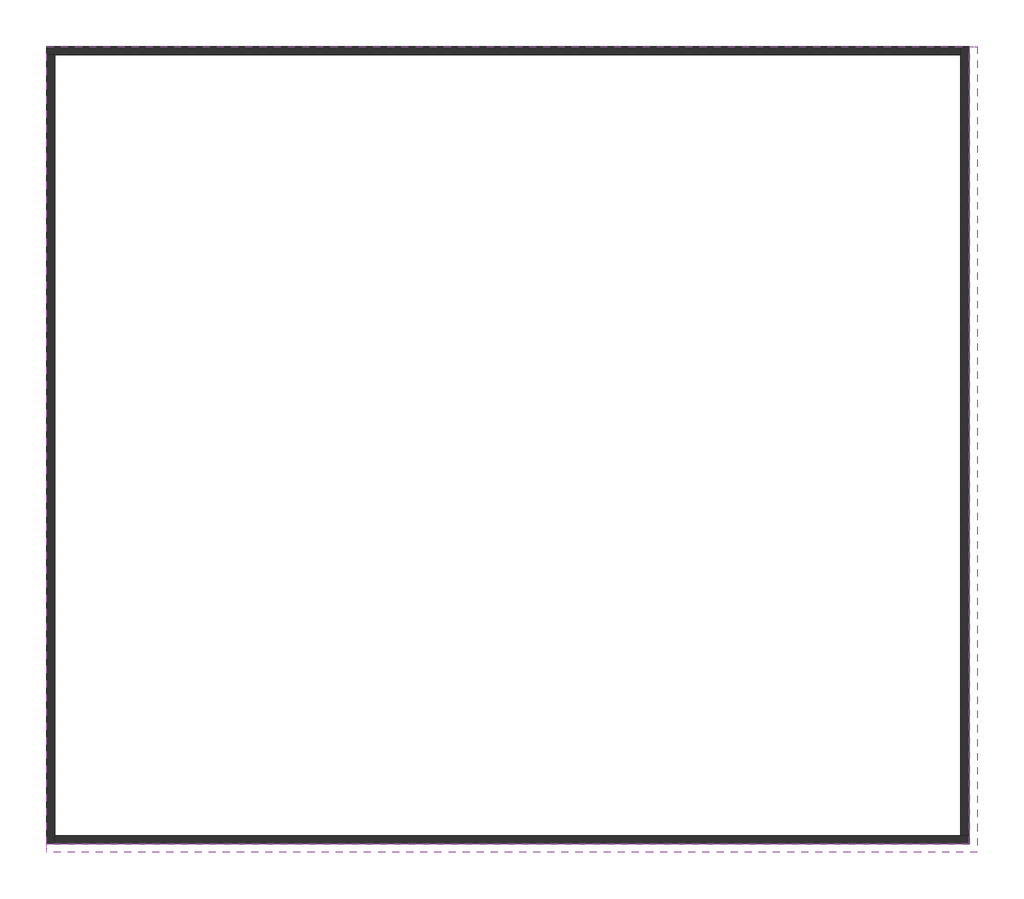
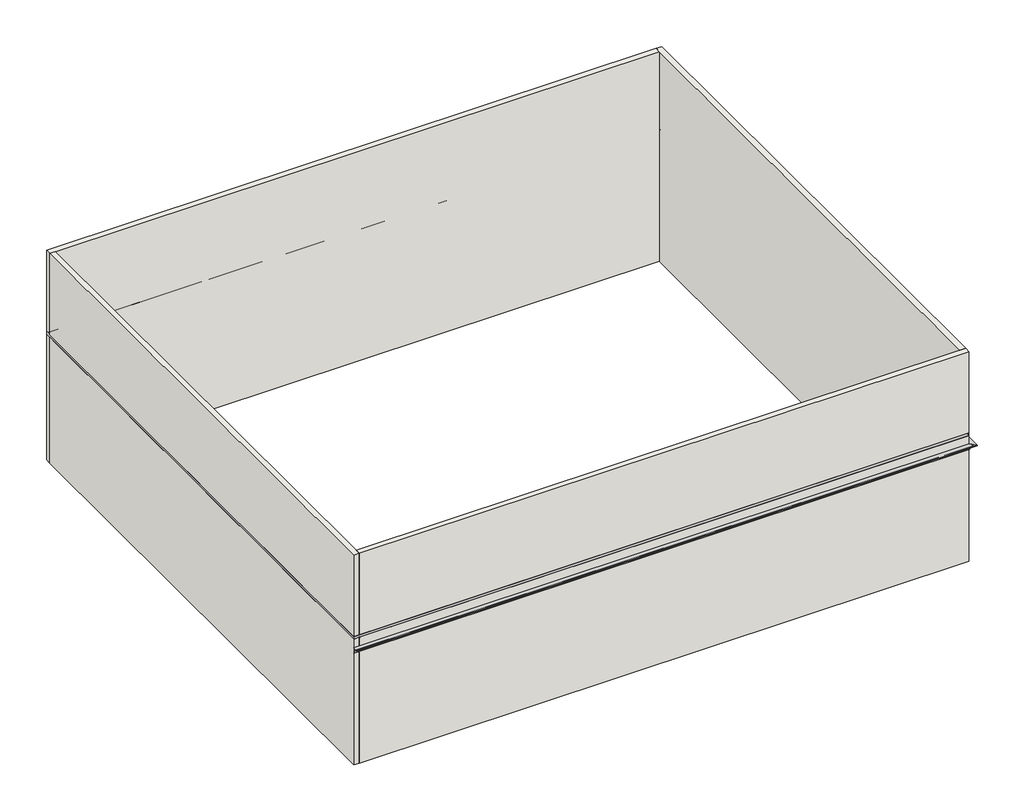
# One storey: 4 walls, 2 proxies.
"""IFC4 building model written with IfcOpenShell, lengths in millimetres."""

from ifc_helpers import new_model, si_unit, frame, origin, place, context, project, spatial, polyline, circle_curve, ellipse_curve, element, save
from ifc_brep_helpers import plane_surface, cylinder_surface, revolved_surface, advanced_brep

model = new_model("IFC4")

# Units and contexts
model_context = context("Model", 3, world=origin())
ifc_project = project(units=[si_unit("LENGTHUNIT", "METRE", prefix="MILLI")], contexts=[model_context])

# Site, building, storey
site = spatial("IfcSite", under=ifc_project)
building = spatial("IfcBuilding", under=site)
storey = spatial("IfcBuildingStorey", under=building, Name="Nível 1", Elevation=0.0)

# Proxies
placement = place(None, origin())
element("IfcBuildingElementProxy", 1, Name="Cornija", ObjectType="Cornija", at=placement, inside=storey, context=model_context, shape_type="AdvancedBrep", body=[
    advanced_brep(
    [(9081.3042825, -9893.1907529, 4480.0), (9081.3042825, -9893.1907529, 4460.0), (8901.3042825, -9713.1907529, 4280.0), (8881.3042825, -9693.1907529, 4280.0), (8881.3042825, -9693.1907529, 4480.0), (-13318.6957175, -9893.1907529, 4480.0), (-13318.6957175, -9693.1907529, 4480.0), (-13318.6957175, -9693.1907529, 4280.0), (-13318.6957175, -9713.1907529, 4280.0), (-13318.6957175, -9893.1907529, 4460.0)],
    [
        (0, 1),
        (1, 2, ellipse_curve(frame((9081.3042825, -9893.1907529, 4280.0), z_axis=(-0.7071067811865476, -0.7071067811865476, 0.0), x_axis=(-0.7071067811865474, 0.7071067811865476, 0.0)), 254.5584412, 180.0)),
        (2, 3),
        (3, 4),
        (4, 0),
        (5, 6),
        (6, 7),
        (7, 8),
        (8, 9, circle_curve(frame((-13318.6957175, -9893.1907529, 4280.0), z_axis=(1.0, 0.0, 0.0), x_axis=(0.0, -1.0, 0.0)), 180.0)),
        (9, 5),
        (0, 5),
        (9, 1),
        (8, 2),
        (7, 3),
        (6, 4),
    ],
    [
        plane_surface(frame((8881.3042825, -9693.1907529, 4784.8), z_axis=(0.7071067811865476, 0.7071067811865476, 0.0), x_axis=(-0.7071067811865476, 0.7071067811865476, 0.0))),
        plane_surface(frame((-13318.6957175, -9693.1907529, 4279.0024876), z_axis=(-1.0, 0.0, 0.0), x_axis=(0.0, -1.0, 0.0))),
        plane_surface(frame((9081.3042825, -9893.1907529, 4480.0), z_axis=(0.0, -1.0, 0.0), x_axis=(-1.0, 0.0, 0.0))),
        revolved_surface(polyline([(-13318.6957175, -10073.1907529, 4280.0), (9261.304282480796, -10073.1907529, 4280.0)]), (8881.3042825, -9893.1907529, 4280.0), (-1.0, 0.0, 0.0)),
        plane_surface(frame((8901.3042825, -9713.1907529, 4280.0), z_axis=(0.0, 0.0, -1.0), x_axis=(-1.0, 0.0, 0.0))),
        plane_surface(frame((8881.3042825, -9693.1907529, 4280.0), z_axis=(0.0, 1.0, 0.0), x_axis=(-1.0, 0.0, 0.0))),
        plane_surface(frame((8881.3042825, -9693.1907529, 4480.0), z_axis=(0.0, 0.0, 1.0), x_axis=(-1.0, 0.0, 0.0))),
    ],
    [
        (0, [[1, 2, 3, 4, 5]]),
        (1, [[6, 7, 8, 9, 10]]),
        (2, [[-1, 11, -10, 12]]),
        (3, [[-2, -12, -9, 13]]),
        (4, [[-3, -13, -8, 14]]),
        (5, [[-4, -14, -7, 15]]),
        (6, [[-5, -15, -6, -11]]),
    ],
),
    advanced_brep(
    [(9081.3042825, 9506.8092471, 4480.0), (9081.3042825, 9506.8092471, 4460.0), (8901.3042825, 9506.8092471, 4280.0), (8881.3042825, 9506.8092471, 4280.0), (8881.3042825, 9506.8092471, 4480.0), (9081.3042825, -9893.1907529, 4480.0), (8881.3042825, -9693.1907529, 4480.0), (8881.3042825, -9693.1907529, 4280.0), (8901.3042825, -9713.1907529, 4280.0), (9081.3042825, -9893.1907529, 4460.0)],
    [
        (0, 1),
        (1, 2, circle_curve(frame((9081.3042825, 9506.8092471, 4280.0), z_axis=(0.0, -1.0, 0.0), x_axis=(1.0, 0.0, 0.0)), 180.0)),
        (2, 3),
        (3, 4),
        (4, 0),
        (5, 6),
        (6, 7),
        (7, 8),
        (8, 9, ellipse_curve(frame((9081.3042825, -9893.1907529, 4280.0), z_axis=(0.7071067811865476, 0.7071067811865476, 0.0), x_axis=(0.7071067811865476, -0.7071067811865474, 0.0)), 254.5584412, 180.0)),
        (9, 5),
        (0, 5),
        (9, 1),
        (8, 2),
        (7, 3),
        (6, 4),
    ],
    [
        plane_surface(frame((8680.3067701, 9506.8092471, 4480.0), z_axis=(0.0, 1.0, 0.0), x_axis=(0.0, 0.0, -1.0))),
        plane_surface(frame((8881.3042825, -9693.1907529, 4784.8), z_axis=(-0.7071067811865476, -0.7071067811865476, 0.0), x_axis=(-0.7071067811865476, 0.7071067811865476, 0.0))),
        plane_surface(frame((9081.3042825, 9506.8092471, 4480.0), z_axis=(1.0, 0.0, 0.0), x_axis=(0.0, -1.0, 0.0))),
        revolved_surface(polyline([(9261.3042825, -10073.190752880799, 4280.0), (9261.3042825, 9506.8092471, 4280.0)]), (9081.3042825, 9506.8092471, 4280.0), (0.0, -1.0, 0.0)),
        plane_surface(frame((8901.3042825, 9506.8092471, 4280.0), z_axis=(0.0, 0.0, -1.0), x_axis=(0.0, -1.0, 0.0))),
        plane_surface(frame((8881.3042825, 9506.8092471, 4280.0), z_axis=(-1.0, 0.0, 0.0), x_axis=(0.0, -1.0, 0.0))),
        plane_surface(frame((8881.3042825, 9506.8092471, 4480.0), z_axis=(0.0, 0.0, 1.0), x_axis=(0.0, -1.0, 0.0))),
    ],
    [
        (0, [[1, 2, 3, 4, 5]]),
        (1, [[6, 7, 8, 9, 10]]),
        (2, [[-1, 11, -10, 12]]),
        (3, [[-2, -12, -9, 13]]),
        (4, [[-3, -13, -8, 14]]),
        (5, [[-4, -14, -7, 15]]),
        (6, [[-5, -15, -6, -11]]),
    ],
),
])
element("IfcBuildingElementProxy", 2, Name="Friso", ObjectType="Friso", at=placement, inside=storey, context=model_context, shape_type="AdvancedBrep", body=[
    advanced_brep(
    [(8781.3042825, -9593.1907529, 4900.0), (8881.3042825, -9693.1907529, 4900.0), (8881.3042825, -9693.1907529, 4800.0), (8871.3042825, -9683.1907529, 4800.0), (8781.3042825, -9593.1907529, 4890.0), (-13218.6957175, -9593.1907529, 4900.0), (-13218.6957175, -9593.1907529, 4890.0), (-13308.6957175, -9683.1907529, 4800.0), (-13318.6957175, -9693.1907529, 4800.0), (-13318.6957175, -9693.1907529, 4900.0)],
    [
        (0, 1),
        (1, 2),
        (2, 3),
        (3, 4, ellipse_curve(frame((8781.3042825, -9593.1907529, 4800.0), z_axis=(-0.7071067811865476, -0.7071067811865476, 0.0), x_axis=(-0.7071067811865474, 0.7071067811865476, 0.0)), 127.2792206, 90.0)),
        (4, 0),
        (5, 6),
        (6, 7, ellipse_curve(frame((-13218.6957175, -9593.1907529, 4800.0), z_axis=(0.7071067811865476, -0.7071067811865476, 0.0), x_axis=(-0.7071067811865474, -0.7071067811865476, 0.0)), 127.2792206, 90.0)),
        (7, 8),
        (8, 9),
        (9, 5),
        (0, 5),
        (9, 1),
        (8, 2),
        (7, 3),
        (6, 4),
    ],
    [
        plane_surface(frame((8881.3042825, -9693.1907529, 5204.8), z_axis=(0.7071067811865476, 0.7071067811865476, 0.0), x_axis=(-0.7071067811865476, 0.7071067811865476, 0.0))),
        plane_surface(frame((-13318.6957175, -9693.1907529, 5204.8), z_axis=(-0.7071067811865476, 0.7071067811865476, 0.0), x_axis=(0.7071067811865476, 0.7071067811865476, 0.0))),
        plane_surface(frame((8781.3042825, -9593.1907529, 4900.0), z_axis=(0.0, 0.0, 1.0), x_axis=(-1.0, 0.0, 0.0))),
        plane_surface(frame((8881.3042825, -9693.1907529, 4900.0), z_axis=(0.0, -1.0, 0.0), x_axis=(-1.0, 0.0, 0.0))),
        plane_surface(frame((8881.3042825, -9693.1907529, 4800.0), z_axis=(0.0, 0.0, -1.0), x_axis=(-1.0, 0.0, 0.0))),
        revolved_surface(polyline([(-13308.6957175, -9503.1907529, 4800.0), (8871.3042825, -9503.1907529, 4800.0)]), (8881.3042825, -9593.1907529, 4800.0), (-1.0, 0.0, 0.0)),
        plane_surface(frame((8781.3042825, -9593.1907529, 4890.0), z_axis=(0.0, 1.0, 0.0), x_axis=(-1.0, 0.0, 0.0))),
    ],
    [
        (0, [[1, 2, 3, 4, 5]]),
        (1, [[6, 7, 8, 9, 10]]),
        (2, [[-1, 11, -10, 12]]),
        (3, [[-2, -12, -9, 13]]),
        (4, [[-3, -13, -8, 14]]),
        (5, [[-4, -14, -7, 15]]),
        (6, [[-5, -15, -6, -11]]),
    ],
),
    advanced_brep(
    [(8781.3042825, 9406.8092471, 4900.0), (8881.3042825, 9506.8092471, 4900.0), (8881.3042825, 9506.8092471, 4800.0), (8871.3042825, 9496.8092471, 4800.0), (8781.3042825, 9406.8092471, 4890.0), (8781.3042825, -9593.1907529, 4900.0), (8781.3042825, -9593.1907529, 4890.0), (8871.3042825, -9683.1907529, 4800.0), (8881.3042825, -9693.1907529, 4800.0), (8881.3042825, -9693.1907529, 4900.0)],
    [
        (0, 1),
        (1, 2),
        (2, 3),
        (3, 4, ellipse_curve(frame((8781.3042825, 9406.8092471, 4800.0), z_axis=(0.7071067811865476, -0.7071067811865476, 0.0), x_axis=(-0.7071067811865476, -0.7071067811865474, 0.0)), 127.2792206, 90.0)),
        (4, 0),
        (5, 6),
        (6, 7, ellipse_curve(frame((8781.3042825, -9593.1907529, 4800.0), z_axis=(0.7071067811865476, 0.7071067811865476, 0.0), x_axis=(0.7071067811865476, -0.7071067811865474, 0.0)), 127.2792206, 90.0)),
        (7, 8),
        (8, 9),
        (9, 5),
        (0, 5),
        (9, 1),
        (8, 2),
        (7, 3),
        (6, 4),
    ],
    [
        plane_surface(frame((8881.3042825, 9506.8092471, 5204.8), z_axis=(-0.7071067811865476, 0.7071067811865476, 0.0), x_axis=(-0.7071067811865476, -0.7071067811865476, 0.0))),
        plane_surface(frame((8881.3042825, -9693.1907529, 5204.8), z_axis=(-0.7071067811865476, -0.7071067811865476, 0.0), x_axis=(-0.7071067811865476, 0.7071067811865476, 0.0))),
        plane_surface(frame((8781.3042825, 9406.8092471, 4900.0), z_axis=(0.0, 0.0, 1.0), x_axis=(0.0, -1.0, 0.0))),
        plane_surface(frame((8881.3042825, 9506.8092471, 4900.0), z_axis=(1.0, 0.0, 0.0), x_axis=(0.0, -1.0, 0.0))),
        plane_surface(frame((8881.3042825, 9506.8092471, 4800.0), z_axis=(0.0, 0.0, -1.0), x_axis=(0.0, -1.0, 0.0))),
        revolved_surface(polyline([(8691.3042825, -9683.1907529, 4800.0), (8691.3042825, 9496.8092471, 4800.0)]), (8781.3042825, 9506.8092471, 4800.0), (0.0, -1.0, 0.0)),
        plane_surface(frame((8781.3042825, 9406.8092471, 4890.0), z_axis=(-1.0, 0.0, 0.0), x_axis=(0.0, -1.0, 0.0))),
    ],
    [
        (0, [[1, 2, 3, 4, 5]]),
        (1, [[6, 7, 8, 9, 10]]),
        (2, [[-1, 11, -10, 12]]),
        (3, [[-2, -12, -9, 13]]),
        (4, [[-3, -13, -8, 14]]),
        (5, [[-4, -14, -7, 15]]),
        (6, [[-5, -15, -6, -11]]),
    ],
),
    advanced_brep(
    [(-13218.6957175, 9406.8092471, 4900.0), (-13318.6957175, 9506.8092471, 4900.0), (-13318.6957175, 9506.8092471, 4800.0), (-13308.6957175, 9496.8092471, 4800.0), (-13218.6957175, 9406.8092471, 4890.0), (8781.3042825, 9406.8092471, 4900.0), (8781.3042825, 9406.8092471, 4890.0), (8871.3042825, 9496.8092471, 4800.0), (8881.3042825, 9506.8092471, 4800.0), (8881.3042825, 9506.8092471, 4900.0)],
    [
        (0, 1),
        (1, 2),
        (2, 3),
        (3, 4, ellipse_curve(frame((-13218.6957175, 9406.8092471, 4800.0), z_axis=(0.7071067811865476, 0.7071067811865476, 0.0), x_axis=(0.7071067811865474, -0.7071067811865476, 0.0)), 127.2792206, 90.0)),
        (4, 0),
        (5, 6),
        (6, 7, ellipse_curve(frame((8781.3042825, 9406.8092471, 4800.0), z_axis=(-0.7071067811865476, 0.7071067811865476, 0.0), x_axis=(0.7071067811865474, 0.7071067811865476, 0.0)), 127.2792206, 90.0)),
        (7, 8),
        (8, 9),
        (9, 5),
        (0, 5),
        (9, 1),
        (8, 2),
        (7, 3),
        (6, 4),
    ],
    [
        plane_surface(frame((-13318.6957175, 9506.8092471, 5204.8), z_axis=(-0.7071067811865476, -0.7071067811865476, 0.0), x_axis=(0.7071067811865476, -0.7071067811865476, 0.0))),
        plane_surface(frame((8881.3042825, 9506.8092471, 5204.8), z_axis=(0.7071067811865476, -0.7071067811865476, 0.0), x_axis=(-0.7071067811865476, -0.7071067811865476, 0.0))),
        plane_surface(frame((-13218.6957175, 9406.8092471, 4900.0), z_axis=(0.0, 0.0, 1.0), x_axis=(1.0, 0.0, 0.0))),
        plane_surface(frame((-13318.6957175, 9506.8092471, 4900.0), z_axis=(0.0, 1.0, 0.0), x_axis=(1.0, 0.0, 0.0))),
        plane_surface(frame((-13318.6957175, 9506.8092471, 4800.0), z_axis=(0.0, 0.0, -1.0), x_axis=(1.0, 0.0, 0.0))),
        revolved_surface(polyline([(8871.3042825, 9316.8092471, 4800.0), (-13308.6957175, 9316.8092471, 4800.0)]), (-13318.6957175, 9406.8092471, 4800.0), (1.0, 0.0, 0.0)),
        plane_surface(frame((-13218.6957175, 9406.8092471, 4890.0), z_axis=(0.0, -1.0, 0.0), x_axis=(1.0, 0.0, 0.0))),
    ],
    [
        (0, [[1, 2, 3, 4, 5]]),
        (1, [[6, 7, 8, 9, 10]]),
        (2, [[-1, 11, -10, 12]]),
        (3, [[-2, -12, -9, 13]]),
        (4, [[-3, -13, -8, 14]]),
        (5, [[-4, -14, -7, 15]]),
        (6, [[-5, -15, -6, -11]]),
    ],
),
    advanced_brep(
    [(-13218.6957175, -9593.1907529, 4900.0), (-13318.6957175, -9693.1907529, 4900.0), (-13318.6957175, -9693.1907529, 4800.0), (-13308.6957175, -9683.1907529, 4800.0), (-13218.6957175, -9593.1907529, 4890.0), (-13218.6957175, 9406.8092471, 4900.0), (-13218.6957175, 9406.8092471, 4890.0), (-13308.6957175, 9496.8092471, 4800.0), (-13318.6957175, 9506.8092471, 4800.0), (-13318.6957175, 9506.8092471, 4900.0)],
    [
        (0, 1),
        (1, 2),
        (2, 3),
        (3, 4, ellipse_curve(frame((-13218.6957175, -9593.1907529, 4800.0), z_axis=(-0.7071067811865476, 0.7071067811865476, 0.0), x_axis=(0.7071067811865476, 0.7071067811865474, 0.0)), 127.2792206, 90.0)),
        (4, 0),
        (5, 6),
        (6, 7, ellipse_curve(frame((-13218.6957175, 9406.8092471, 4800.0), z_axis=(-0.7071067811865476, -0.7071067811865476, 0.0), x_axis=(-0.7071067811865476, 0.7071067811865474, 0.0)), 127.2792206, 90.0)),
        (7, 8),
        (8, 9),
        (9, 5),
        (0, 5),
        (9, 1),
        (8, 2),
        (7, 3),
        (6, 4),
    ],
    [
        plane_surface(frame((-13318.6957175, -9693.1907529, 5204.8), z_axis=(0.7071067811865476, -0.7071067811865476, 0.0), x_axis=(0.7071067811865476, 0.7071067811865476, 0.0))),
        plane_surface(frame((-13318.6957175, 9506.8092471, 5204.8), z_axis=(0.7071067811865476, 0.7071067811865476, 0.0), x_axis=(0.7071067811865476, -0.7071067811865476, 0.0))),
        plane_surface(frame((-13218.6957175, -9593.1907529, 4900.0), z_axis=(0.0, 0.0, 1.0), x_axis=(0.0, 1.0, 0.0))),
        plane_surface(frame((-13318.6957175, -9693.1907529, 4900.0), z_axis=(-1.0, 0.0, 0.0), x_axis=(0.0, 1.0, 0.0))),
        plane_surface(frame((-13318.6957175, -9693.1907529, 4800.0), z_axis=(0.0, 0.0, -1.0), x_axis=(0.0, 1.0, 0.0))),
        revolved_surface(polyline([(-13128.6957175, 9496.8092471, 4800.0), (-13128.6957175, -9683.1907529, 4800.0)]), (-13218.6957175, -9693.1907529, 4800.0), (0.0, 1.0, 0.0)),
        plane_surface(frame((-13218.6957175, -9593.1907529, 4890.0), z_axis=(1.0, 0.0, 0.0), x_axis=(0.0, 1.0, 0.0))),
    ],
    [
        (0, [[1, 2, 3, 4, 5]]),
        (1, [[6, 7, 8, 9, 10]]),
        (2, [[-1, 11, -10, 12]]),
        (3, [[-2, -12, -9, 13]]),
        (4, [[-3, -13, -8, 14]]),
        (5, [[-4, -14, -7, 15]]),
        (6, [[-5, -15, -6, -11]]),
    ],
),
])

# Walls
element("IfcWall", 3, ObjectType="Genérico - 200 mm", at=placement, inside=storey, context=model_context, shape_type="AdvancedBrep", body=[
    advanced_brep(
    [(-13318.6957175, 9306.8092471, 0.0), (-13118.6957175, 9306.8092471, 0.0), (8681.3042825, 9306.8092471, 0.0), (8681.3042825, 9306.8092471, 8000.0), (-13118.6957175, 9306.8092471, 8000.0), (-13318.6957175, 9306.8092471, 8000.0), (-13318.6957175, 9306.8092471, 4900.0), (-13218.6957175, 9306.8092471, 4900.0), (-13218.6957175, 9306.8092471, 4890.0), (-13308.6957175, 9306.8092471, 4800.0), (-13318.6957175, 9306.8092471, 4800.0), (8681.3042825, 9506.8092471, 0.0), (-13318.6957175, 9506.8092471, 0.0), (-13318.6957175, 9506.8092471, 4800.0), (8681.3042825, 9506.8092471, 4800.0), (-13318.6957175, 9506.8092471, 8000.0), (8681.3042825, 9506.8092471, 8000.0), (8681.3042825, 9506.8092471, 4900.0), (-13318.6957175, 9506.8092471, 4900.0), (8681.3042825, 9496.8092471, 4800.0), (8681.3042825, 9406.8092471, 4890.0), (8681.3042825, 9406.8092471, 4900.0), (-13218.6957175, 9406.8092471, 4900.0), (-13308.6957175, 9496.8092471, 4800.0), (-13218.6957175, 9406.8092471, 4890.0)],
    [
        (0, 1),
        (1, 2),
        (2, 3),
        (3, 4),
        (4, 5),
        (5, 6),
        (6, 7),
        (7, 8),
        (8, 9, circle_curve(frame((-13218.6957175, 9306.8092471, 4800.0), z_axis=(0.0, -1.0, 0.0), x_axis=(1.0, 0.0, 0.0)), 90.0)),
        (9, 10),
        (10, 0),
        (11, 12),
        (12, 13),
        (13, 14),
        (14, 11),
        (15, 16),
        (16, 17),
        (17, 18),
        (18, 15),
        (0, 12),
        (11, 2),
        (3, 16),
        (15, 5),
        (18, 6),
        (10, 13),
        (14, 19),
        (19, 20, circle_curve(frame((8681.3042825, 9406.8092471, 4800.0), z_axis=(1.0, 0.0, 0.0), x_axis=(0.0, -1.0, 0.0)), 90.0)),
        (20, 21),
        (21, 17),
        (21, 22),
        (22, 7),
        (9, 23),
        (23, 19),
        (24, 23, ellipse_curve(frame((-13218.6957175, 9406.8092471, 4800.0), z_axis=(-0.7071067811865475, -0.7071067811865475, 0.0), x_axis=(-0.7071067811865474, 0.7071067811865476, 0.0)), 127.2792206, 90.0)),
        (8, 24),
        (22, 24),
        (24, 20),
    ],
    [
        plane_surface(frame((-13218.6957175, 9306.8092471, 0.0), z_axis=(0.0, -1.0, 0.0), x_axis=(1.0, 0.0, 0.0))),
        plane_surface(frame((-13218.6957175, 9506.8092471, 0.0), z_axis=(0.0, 1.0, 0.0), x_axis=(-1.0, 0.0, 0.0))),
        plane_surface(frame((-13218.6957175, 9306.8092471, 0.0), z_axis=(0.0, 0.0, -1.0), x_axis=(0.0, 1.0, 0.0))),
        plane_surface(frame((8781.3042825, 9306.8092471, 8000.0), z_axis=(0.0, 0.0, 1.0), x_axis=(0.0, 1.0, 0.0))),
        plane_surface(frame((-13318.6957175, -5593.1907529, 0.0), z_axis=(-1.0, 0.0, 0.0), x_axis=(0.0, -1.0, 0.0))),
        plane_surface(frame((8681.3042825, 9406.8092471, 0.0), z_axis=(1.0, 0.0, 0.0), x_axis=(0.0, -1.0, 0.0))),
        plane_surface(frame((-13218.6957175, -9693.1907529, 4900.0), z_axis=(0.0, 0.0, -1.0), x_axis=(0.0, 1.0, 0.0))),
        plane_surface(frame((-13318.6957175, -9693.1907529, 4800.0), z_axis=(0.0, 0.0, 1.0), x_axis=(0.0, 1.0, 0.0))),
        cylinder_surface(frame((-13218.6957175, -9693.1907529, 4800.0), z_axis=(0.0, 1.0, 0.0), x_axis=(1.0, 0.0, 0.0)), 90.0),
        plane_surface(frame((-13218.6957175, -9693.1907529, 4890.0), z_axis=(-1.0, 0.0, 0.0), x_axis=(0.0, 1.0, 0.0))),
        cylinder_surface(frame((-13318.6957175, 9406.8092471, 4800.0), z_axis=(1.0, 0.0, 0.0), x_axis=(0.0, -1.0, 0.0)), 90.0),
        plane_surface(frame((-13218.6957175, 9406.8092471, 4890.0), z_axis=(0.0, 1.0, 0.0), x_axis=(1.0, 0.0, 0.0))),
    ],
    [
        (0, [[1, 2, 3, 4, 5, 6, 7, 8, 9, 10, 11]]),
        (1, [[12, 13, 14, 15]]),
        (1, [[16, 17, 18, 19]]),
        (2, [[-2, -1, 20, -12, 21]]),
        (3, [[-5, -4, 22, -16, 23]]),
        (4, [[-23, -19, 24, -6]]),
        (4, [[-20, -11, 25, -13]]),
        (5, [[-3, -21, -15, 26, 27, 28, 29, -17, -22]]),
        (6, [[30, 31, -7, -24, -18, -29]]),
        (7, [[32, 33, -26, -14, -25, -10]]),
        (8, [[34, -32, -9, 35]]),
        (9, [[36, -35, -8, -31]]),
        (10, [[-34, 37, -27, -33]]),
        (11, [[-36, -30, -28, -37]]),
    ],
),
])
element("IfcWall", 4, ObjectType="Genérico - 200 mm", at=placement, inside=storey, context=model_context, shape_type="AdvancedBrep", body=[
    advanced_brep(
    [(-13118.6957175, -9693.1907529, 0.0), (-13118.6957175, -9493.1907529, 0.0), (-13118.6957175, 9306.8092471, 0.0), (-13118.6957175, 9306.8092471, 8000.0), (-13118.6957175, -9493.1907529, 8000.0), (-13118.6957175, -9693.1907529, 8000.0), (-13118.6957175, -9693.1907529, 4900.0), (-13118.6957175, -9593.1907529, 4900.0), (-13118.6957175, -9593.1907529, 4890.0), (-13118.6957175, -9683.1907529, 4800.0), (-13118.6957175, -9693.1907529, 4800.0), (-13118.6957175, -9693.1907529, 4480.0), (-13118.6957175, -9693.1907529, 4280.0), (-13318.6957175, 9306.8092471, 0.0), (-13318.6957175, -9693.1907529, 0.0), (-13318.6957175, -9693.1907529, 4280.0), (-13318.6957175, -9693.1907529, 4480.0), (-13318.6957175, -9693.1907529, 4800.0), (-13318.6957175, 9306.8092471, 4800.0), (-13318.6957175, -9693.1907529, 8000.0), (-13318.6957175, 9306.8092471, 8000.0), (-13318.6957175, 9306.8092471, 4900.0), (-13318.6957175, -9693.1907529, 4900.0), (-13308.6957175, 9306.8092471, 4800.0), (-13218.6957175, 9306.8092471, 4890.0), (-13218.6957175, 9306.8092471, 4900.0), (-13218.6957175, -9593.1907529, 4900.0), (-13308.6957175, -9683.1907529, 4800.0), (-13218.6957175, -9593.1907529, 4890.0)],
    [
        (0, 1),
        (1, 2),
        (2, 3),
        (3, 4),
        (4, 5),
        (5, 6),
        (6, 7),
        (7, 8),
        (8, 9, circle_curve(frame((-13118.6957175, -9593.1907529, 4800.0), z_axis=(1.0, 0.0, 0.0), x_axis=(0.0, 1.0, 0.0)), 90.0)),
        (9, 10),
        (10, 11),
        (11, 12),
        (12, 0),
        (13, 14),
        (14, 15),
        (15, 16),
        (16, 17),
        (17, 18),
        (18, 13),
        (19, 20),
        (20, 21),
        (21, 22),
        (22, 19),
        (0, 14),
        (13, 2),
        (3, 20),
        (19, 5),
        (22, 6),
        (10, 17),
        (18, 23),
        (23, 24, circle_curve(frame((-13218.6957175, 9306.8092471, 4800.0), z_axis=(0.0, 1.0, 0.0), x_axis=(1.0, 0.0, 0.0)), 90.0)),
        (24, 25),
        (25, 21),
        (25, 26),
        (26, 7),
        (9, 27),
        (27, 23),
        (28, 27, ellipse_curve(frame((-13218.6957175, -9593.1907529, 4800.0), z_axis=(0.7071067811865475, -0.7071067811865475, 0.0), x_axis=(-0.7071067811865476, -0.7071067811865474, 0.0)), 127.2792206, 90.0)),
        (8, 28),
        (26, 28),
        (28, 24),
    ],
    [
        plane_surface(frame((-13118.6957175, -5593.1907529, 0.0), z_axis=(1.0, 0.0, 0.0), x_axis=(0.0, 1.0, 0.0))),
        plane_surface(frame((-13318.6957175, -5593.1907529, 0.0), z_axis=(-1.0, 0.0, 0.0), x_axis=(0.0, -1.0, 0.0))),
        plane_surface(frame((-13118.6957175, -9593.1907529, 0.0), z_axis=(0.0, 0.0, -1.0), x_axis=(-1.0, 0.0, 0.0))),
        plane_surface(frame((-13118.6957175, 9406.8092471, 8000.0), z_axis=(0.0, 0.0, 1.0), x_axis=(-1.0, 0.0, 0.0))),
        plane_surface(frame((6781.3042825, -9693.1907529, 0.0), z_axis=(0.0, -1.0, 0.0), x_axis=(1.0, 0.0, 0.0))),
        plane_surface(frame((-13218.6957175, 9306.8092471, 0.0), z_axis=(0.0, 1.0, 0.0), x_axis=(1.0, 0.0, 0.0))),
        plane_surface(frame((8881.3042825, -9593.1907529, 4900.0), z_axis=(0.0, 0.0, -1.0), x_axis=(-1.0, 0.0, 0.0))),
        plane_surface(frame((8881.3042825, -9693.1907529, 4800.0), z_axis=(0.0, 0.0, 1.0), x_axis=(-1.0, 0.0, 0.0))),
        cylinder_surface(frame((8881.3042825, -9593.1907529, 4800.0), z_axis=(-1.0, 0.0, 0.0), x_axis=(0.0, 1.0, 0.0)), 90.0),
        plane_surface(frame((8881.3042825, -9593.1907529, 4890.0), z_axis=(0.0, -1.0, 0.0), x_axis=(-1.0, 0.0, 0.0))),
        cylinder_surface(frame((-13218.6957175, -9693.1907529, 4800.0), z_axis=(0.0, 1.0, 0.0), x_axis=(1.0, 0.0, 0.0)), 90.0),
        plane_surface(frame((-13218.6957175, -9593.1907529, 4890.0), z_axis=(-1.0, 0.0, 0.0), x_axis=(0.0, 1.0, 0.0))),
    ],
    [
        (0, [[1, 2, 3, 4, 5, 6, 7, 8, 9, 10, 11, 12, 13]]),
        (1, [[14, 15, 16, 17, 18, 19]]),
        (1, [[20, 21, 22, 23]]),
        (2, [[-2, -1, 24, -14, 25]]),
        (3, [[-5, -4, 26, -20, 27]]),
        (4, [[-27, -23, 28, -6]]),
        (4, [[-24, -13, -12, -11, 29, -17, -16, -15]]),
        (5, [[-3, -25, -19, 30, 31, 32, 33, -21, -26]]),
        (6, [[34, 35, -7, -28, -22, -33]]),
        (7, [[36, 37, -30, -18, -29, -10]]),
        (8, [[38, -36, -9, 39]]),
        (9, [[40, -39, -8, -35]]),
        (10, [[-38, 41, -31, -37]]),
        (11, [[-40, -34, -32, -41]]),
    ],
),
])
element("IfcWall", 5, ObjectType="Genérico - 200 mm", at=placement, inside=storey, context=model_context, shape_type="AdvancedBrep", body=[
    advanced_brep(
    [(8881.3042825, -9493.1907529, 0.0), (8681.3042825, -9493.1907529, 0.0), (-13118.6957175, -9493.1907529, 0.0), (-13118.6957175, -9493.1907529, 8000.0), (8681.3042825, -9493.1907529, 8000.0), (8881.3042825, -9493.1907529, 8000.0), (8881.3042825, -9493.1907529, 4900.0), (8781.3042825, -9493.1907529, 4900.0), (8781.3042825, -9493.1907529, 4890.0), (8871.3042825, -9493.1907529, 4800.0), (8881.3042825, -9493.1907529, 4800.0), (8881.3042825, -9493.1907529, 4480.0), (8881.3042825, -9493.1907529, 4280.0), (-13118.6957175, -9693.1907529, 0.0), (8881.3042825, -9693.1907529, 0.0), (8881.3042825, -9693.1907529, 4280.0), (8881.3042825, -9693.1907529, 4480.0), (8881.3042825, -9693.1907529, 4800.0), (-13118.6957175, -9693.1907529, 4800.0), (-13118.6957175, -9693.1907529, 4480.0), (-13118.6957175, -9693.1907529, 4280.0), (8881.3042825, -9693.1907529, 8000.0), (-13118.6957175, -9693.1907529, 8000.0), (-13118.6957175, -9693.1907529, 4900.0), (8881.3042825, -9693.1907529, 4900.0), (-13118.6957175, -9683.1907529, 4800.0), (-13118.6957175, -9593.1907529, 4890.0), (-13118.6957175, -9593.1907529, 4900.0), (8781.3042825, -9593.1907529, 4900.0), (8871.3042825, -9683.1907529, 4800.0), (8781.3042825, -9593.1907529, 4890.0)],
    [
        (0, 1),
        (1, 2),
        (2, 3),
        (3, 4),
        (4, 5),
        (5, 6),
        (6, 7),
        (7, 8),
        (8, 9, circle_curve(frame((8781.3042825, -9493.1907529, 4800.0), z_axis=(0.0, 1.0, 0.0), x_axis=(-1.0, 0.0, 0.0)), 90.0)),
        (9, 10),
        (10, 11),
        (11, 12),
        (12, 0),
        (13, 14),
        (14, 15),
        (15, 16),
        (16, 17),
        (17, 18),
        (18, 19),
        (19, 20),
        (20, 13),
        (21, 22),
        (22, 23),
        (23, 24),
        (24, 21),
        (0, 14),
        (13, 2),
        (3, 22),
        (21, 5),
        (24, 6),
        (10, 17),
        (18, 25),
        (25, 26, circle_curve(frame((-13118.6957175, -9593.1907529, 4800.0), z_axis=(-1.0, 0.0, 0.0), x_axis=(0.0, 1.0, 0.0)), 90.0)),
        (26, 27),
        (27, 23),
        (27, 28),
        (28, 7),
        (9, 29),
        (29, 25),
        (30, 29, ellipse_curve(frame((8781.3042825, -9593.1907529, 4800.0), z_axis=(0.7071067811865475, 0.7071067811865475, 0.0), x_axis=(0.7071067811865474, -0.7071067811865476, 0.0)), 127.2792206, 90.0)),
        (8, 30),
        (28, 30),
        (30, 26),
    ],
    [
        plane_surface(frame((6781.3042825, -9493.1907529, 0.0), z_axis=(0.0, 1.0, 0.0), x_axis=(-1.0, 0.0, 0.0))),
        plane_surface(frame((6781.3042825, -9693.1907529, 0.0), z_axis=(0.0, -1.0, 0.0), x_axis=(1.0, 0.0, 0.0))),
        plane_surface(frame((8781.3042825, -9493.1907529, 0.0), z_axis=(0.0, 0.0, -1.0), x_axis=(0.0, -1.0, 0.0))),
        plane_surface(frame((-13218.6957175, -9493.1907529, 8000.0), z_axis=(0.0, 0.0, 1.0), x_axis=(0.0, -1.0, 0.0))),
        plane_surface(frame((8881.3042825, 9406.8092471, 0.0), z_axis=(1.0, 0.0, 0.0), x_axis=(0.0, 1.0, 0.0))),
        plane_surface(frame((-13118.6957175, -5593.1907529, 0.0), z_axis=(-1.0, 0.0, 0.0), x_axis=(0.0, 1.0, 0.0))),
        plane_surface(frame((8781.3042825, 9506.8092471, 4900.0), z_axis=(0.0, 0.0, -1.0), x_axis=(0.0, -1.0, 0.0))),
        plane_surface(frame((8881.3042825, 9506.8092471, 4800.0), z_axis=(0.0, 0.0, 1.0), x_axis=(0.0, -1.0, 0.0))),
        cylinder_surface(frame((8781.3042825, 9506.8092471, 4800.0), z_axis=(0.0, -1.0, 0.0), x_axis=(-1.0, 0.0, 0.0)), 90.0),
        plane_surface(frame((8781.3042825, 9506.8092471, 4890.0), z_axis=(1.0, 0.0, 0.0), x_axis=(0.0, -1.0, 0.0))),
        cylinder_surface(frame((8881.3042825, -9593.1907529, 4800.0), z_axis=(-1.0, 0.0, 0.0), x_axis=(0.0, 1.0, 0.0)), 90.0),
        plane_surface(frame((8781.3042825, -9593.1907529, 4890.0), z_axis=(0.0, -1.0, 0.0), x_axis=(-1.0, 0.0, 0.0))),
    ],
    [
        (0, [[1, 2, 3, 4, 5, 6, 7, 8, 9, 10, 11, 12, 13]]),
        (1, [[14, 15, 16, 17, 18, 19, 20, 21]]),
        (1, [[22, 23, 24, 25]]),
        (2, [[-2, -1, 26, -14, 27]]),
        (3, [[-5, -4, 28, -22, 29]]),
        (4, [[-29, -25, 30, -6]]),
        (4, [[-26, -13, -12, -11, 31, -17, -16, -15]]),
        (5, [[-3, -27, -21, -20, -19, 32, 33, 34, 35, -23, -28]]),
        (6, [[36, 37, -7, -30, -24, -35]]),
        (7, [[38, 39, -32, -18, -31, -10]]),
        (8, [[40, -38, -9, 41]]),
        (9, [[42, -41, -8, -37]]),
        (10, [[-40, 43, -33, -39]]),
        (11, [[-42, -36, -34, -43]]),
    ],
),
])
element("IfcWall", 6, ObjectType="Genérico - 200 mm", at=placement, inside=storey, context=model_context, shape_type="AdvancedBrep", body=[
    advanced_brep(
    [(8681.3042825, 9506.8092471, 0.0), (8681.3042825, 9306.8092471, 0.0), (8681.3042825, -9493.1907529, 0.0), (8681.3042825, -9493.1907529, 8000.0), (8681.3042825, 9306.8092471, 8000.0), (8681.3042825, 9506.8092471, 8000.0), (8681.3042825, 9506.8092471, 4900.0), (8681.3042825, 9406.8092471, 4900.0), (8681.3042825, 9406.8092471, 4890.0), (8681.3042825, 9496.8092471, 4800.0), (8681.3042825, 9506.8092471, 4800.0), (8881.3042825, -9493.1907529, 0.0), (8881.3042825, 9506.8092471, 0.0), (8881.3042825, 9506.8092471, 4280.0), (8881.3042825, 9506.8092471, 4480.0), (8881.3042825, 9506.8092471, 4800.0), (8881.3042825, -9493.1907529, 4800.0), (8881.3042825, -9493.1907529, 4480.0), (8881.3042825, -9493.1907529, 4280.0), (8881.3042825, 9506.8092471, 8000.0), (8881.3042825, -9493.1907529, 8000.0), (8881.3042825, -9493.1907529, 4900.0), (8881.3042825, 9506.8092471, 4900.0), (8871.3042825, -9493.1907529, 4800.0), (8781.3042825, -9493.1907529, 4890.0), (8781.3042825, -9493.1907529, 4900.0), (8781.3042825, 9406.8092471, 4900.0), (8871.3042825, 9496.8092471, 4800.0), (8781.3042825, 9406.8092471, 4890.0)],
    [
        (0, 1),
        (1, 2),
        (2, 3),
        (3, 4),
        (4, 5),
        (5, 6),
        (6, 7),
        (7, 8),
        (8, 9, circle_curve(frame((8681.3042825, 9406.8092471, 4800.0), z_axis=(-1.0, 0.0, 0.0), x_axis=(0.0, -1.0, 0.0)), 90.0)),
        (9, 10),
        (10, 0),
        (11, 12),
        (12, 13),
        (13, 14),
        (14, 15),
        (15, 16),
        (16, 17),
        (17, 18),
        (18, 11),
        (19, 20),
        (20, 21),
        (21, 22),
        (22, 19),
        (0, 12),
        (11, 2),
        (3, 20),
        (19, 5),
        (22, 6),
        (10, 15),
        (16, 23),
        (23, 24, circle_curve(frame((8781.3042825, -9493.1907529, 4800.0), z_axis=(0.0, -1.0, 0.0), x_axis=(-1.0, 0.0, 0.0)), 90.0)),
        (24, 25),
        (25, 21),
        (25, 26),
        (26, 7),
        (9, 27),
        (27, 23),
        (28, 27, ellipse_curve(frame((8781.3042825, 9406.8092471, 4800.0), z_axis=(-0.7071067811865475, 0.7071067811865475, 0.0), x_axis=(0.7071067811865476, 0.7071067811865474, 0.0)), 127.2792206, 90.0)),
        (8, 28),
        (26, 28),
        (28, 24),
    ],
    [
        plane_surface(frame((8681.3042825, 9406.8092471, 0.0), z_axis=(-1.0, 0.0, 0.0), x_axis=(0.0, -1.0, 0.0))),
        plane_surface(frame((8881.3042825, 9406.8092471, 0.0), z_axis=(1.0, 0.0, 0.0), x_axis=(0.0, 1.0, 0.0))),
        plane_surface(frame((8681.3042825, 9406.8092471, 0.0), z_axis=(0.0, 0.0, -1.0), x_axis=(1.0, 0.0, 0.0))),
        plane_surface(frame((8681.3042825, -9593.1907529, 8000.0), z_axis=(0.0, 0.0, 1.0), x_axis=(1.0, 0.0, 0.0))),
        plane_surface(frame((-13218.6957175, 9506.8092471, 0.0), z_axis=(0.0, 1.0, 0.0), x_axis=(-1.0, 0.0, 0.0))),
        plane_surface(frame((6781.3042825, -9493.1907529, 0.0), z_axis=(0.0, -1.0, 0.0), x_axis=(-1.0, 0.0, 0.0))),
        plane_surface(frame((-13318.6957175, 9406.8092471, 4900.0), z_axis=(0.0, 0.0, -1.0), x_axis=(1.0, 0.0, 0.0))),
        plane_surface(frame((-13318.6957175, 9506.8092471, 4800.0), z_axis=(0.0, 0.0, 1.0), x_axis=(1.0, 0.0, 0.0))),
        cylinder_surface(frame((-13318.6957175, 9406.8092471, 4800.0), z_axis=(1.0, 0.0, 0.0), x_axis=(0.0, -1.0, 0.0)), 90.0),
        plane_surface(frame((-13318.6957175, 9406.8092471, 4890.0), z_axis=(0.0, 1.0, 0.0), x_axis=(1.0, 0.0, 0.0))),
        cylinder_surface(frame((8781.3042825, 9506.8092471, 4800.0), z_axis=(0.0, -1.0, 0.0), x_axis=(-1.0, 0.0, 0.0)), 90.0),
        plane_surface(frame((8781.3042825, 9406.8092471, 4890.0), z_axis=(1.0, 0.0, 0.0), x_axis=(0.0, -1.0, 0.0))),
    ],
    [
        (0, [[1, 2, 3, 4, 5, 6, 7, 8, 9, 10, 11]]),
        (1, [[12, 13, 14, 15, 16, 17, 18, 19]]),
        (1, [[20, 21, 22, 23]]),
        (2, [[-2, -1, 24, -12, 25]]),
        (3, [[-5, -4, 26, -20, 27]]),
        (4, [[-27, -23, 28, -6]]),
        (4, [[-24, -11, 29, -15, -14, -13]]),
        (5, [[-3, -25, -19, -18, -17, 30, 31, 32, 33, -21, -26]]),
        (6, [[34, 35, -7, -28, -22, -33]]),
        (7, [[36, 37, -30, -16, -29, -10]]),
        (8, [[38, -36, -9, 39]]),
        (9, [[40, -39, -8, -35]]),
        (10, [[-38, 41, -31, -37]]),
        (11, [[-40, -34, -32, -41]]),
    ],
),
])

save(model, "model.ifc")
